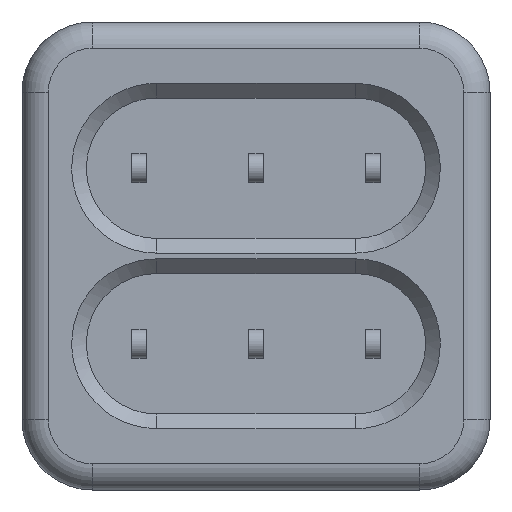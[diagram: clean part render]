
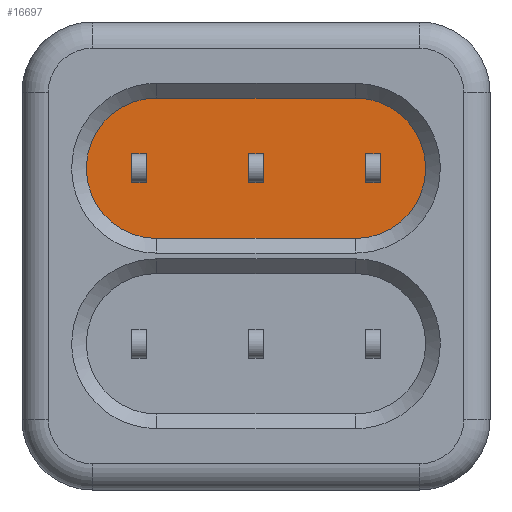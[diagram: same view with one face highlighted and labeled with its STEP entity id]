
A CAD part, front view. The second image highlights one B-rep face of the part: STEP entity #16697.
In plain terms, the highlighted planar face has unit normal (0, -1, 0).
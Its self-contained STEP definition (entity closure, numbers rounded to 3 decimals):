
#13006=CARTESIAN_POINT('',(-3.4,-7.4,3.));
#13007=DIRECTION('',(0.,-1.,0.));
#13008=DIRECTION('',(0.,0.,1.));
#13009=AXIS2_PLACEMENT_3D('',#13006,#13007,#13008);
#13011=DIRECTION('',(-1.,0.,0.));
#13012=VECTOR('',#13011,6.8);
#13013=CARTESIAN_POINT('',(3.4,-7.4,5.4));
#13014=LINE('',#13013,#13012);
#13015=CARTESIAN_POINT('',(3.4,-7.4,3.));
#13016=DIRECTION('',(0.,-1.,0.));
#13017=DIRECTION('',(0.,0.,-1.));
#13018=AXIS2_PLACEMENT_3D('',#13015,#13016,#13017);
#13020=DIRECTION('',(1.,0.,0.));
#13021=VECTOR('',#13020,6.8);
#13022=CARTESIAN_POINT('',(-3.4,-7.4,0.6));
#13023=LINE('',#13022,#13021);
#13024=DIRECTION('',(0.,0.,-1.));
#13025=VECTOR('',#13024,1.);
#13026=CARTESIAN_POINT('',(-4.25,-7.4,3.5));
#13027=LINE('',#13026,#13025);
#13041=DIRECTION('',(1.,0.,0.));
#13042=VECTOR('',#13041,0.5);
#13043=CARTESIAN_POINT('',(-4.25,-7.4,3.5));
#13044=LINE('',#13043,#13042);
#13045=DIRECTION('',(0.,0.,-1.));
#13046=VECTOR('',#13045,1.);
#13047=CARTESIAN_POINT('',(-3.75,-7.4,3.5));
#13048=LINE('',#13047,#13046);
#13062=DIRECTION('',(1.,0.,0.));
#13063=VECTOR('',#13062,0.5);
#13064=CARTESIAN_POINT('',(-4.25,-7.4,2.5));
#13065=LINE('',#13064,#13063);
#13074=DIRECTION('',(0.,0.,1.));
#13075=VECTOR('',#13074,1.);
#13076=CARTESIAN_POINT('',(4.25,-7.4,2.5));
#13077=LINE('',#13076,#13075);
#13091=DIRECTION('',(-1.,0.,0.));
#13092=VECTOR('',#13091,0.5);
#13093=CARTESIAN_POINT('',(4.25,-7.4,2.5));
#13094=LINE('',#13093,#13092);
#13095=DIRECTION('',(0.,0.,1.));
#13096=VECTOR('',#13095,1.);
#13097=CARTESIAN_POINT('',(3.75,-7.4,2.5));
#13098=LINE('',#13097,#13096);
#13112=DIRECTION('',(-1.,0.,0.));
#13113=VECTOR('',#13112,0.5);
#13114=CARTESIAN_POINT('',(4.25,-7.4,3.5));
#13115=LINE('',#13114,#13113);
#13124=DIRECTION('',(0.,0.,1.));
#13125=VECTOR('',#13124,1.);
#13126=CARTESIAN_POINT('',(-0.25,-7.4,2.5));
#13127=LINE('',#13126,#13125);
#13141=DIRECTION('',(1.,0.,0.));
#13142=VECTOR('',#13141,0.5);
#13143=CARTESIAN_POINT('',(-0.25,-7.4,3.5));
#13144=LINE('',#13143,#13142);
#13145=DIRECTION('',(0.,0.,1.));
#13146=VECTOR('',#13145,1.);
#13147=CARTESIAN_POINT('',(0.25,-7.4,2.5));
#13148=LINE('',#13147,#13146);
#13162=DIRECTION('',(1.,0.,0.));
#13163=VECTOR('',#13162,0.5);
#13164=CARTESIAN_POINT('',(-0.25,-7.4,2.5));
#13165=LINE('',#13164,#13163);
#15917=CARTESIAN_POINT('',(-3.4,-7.4,5.4));
#15918=CARTESIAN_POINT('',(-3.4,-7.4,0.6));
#15919=VERTEX_POINT('',#15917);
#15920=VERTEX_POINT('',#15918);
#15921=CARTESIAN_POINT('',(3.4,-7.4,0.6));
#15922=VERTEX_POINT('',#15921);
#15923=CARTESIAN_POINT('',(3.4,-7.4,5.4));
#15924=VERTEX_POINT('',#15923);
#15929=CARTESIAN_POINT('',(-4.25,-7.4,3.5));
#15930=CARTESIAN_POINT('',(-4.25,-7.4,2.5));
#15931=VERTEX_POINT('',#15929);
#15932=VERTEX_POINT('',#15930);
#15937=CARTESIAN_POINT('',(-3.75,-7.4,3.5));
#15938=CARTESIAN_POINT('',(-3.75,-7.4,2.5));
#15939=VERTEX_POINT('',#15937);
#15940=VERTEX_POINT('',#15938);
#15945=CARTESIAN_POINT('',(4.25,-7.4,2.5));
#15946=CARTESIAN_POINT('',(4.25,-7.4,3.5));
#15947=VERTEX_POINT('',#15945);
#15948=VERTEX_POINT('',#15946);
#15953=CARTESIAN_POINT('',(3.75,-7.4,2.5));
#15954=CARTESIAN_POINT('',(3.75,-7.4,3.5));
#15955=VERTEX_POINT('',#15953);
#15956=VERTEX_POINT('',#15954);
#15961=CARTESIAN_POINT('',(-0.25,-7.4,2.5));
#15962=CARTESIAN_POINT('',(-0.25,-7.4,3.5));
#15963=VERTEX_POINT('',#15961);
#15964=VERTEX_POINT('',#15962);
#15969=CARTESIAN_POINT('',(0.25,-7.4,2.5));
#15970=CARTESIAN_POINT('',(0.25,-7.4,3.5));
#15971=VERTEX_POINT('',#15969);
#15972=VERTEX_POINT('',#15970);
#16656=CARTESIAN_POINT('',(0.,-7.4,3.));
#16657=DIRECTION('',(0.,-1.,0.));
#16658=DIRECTION('',(0.,0.,1.));
#16659=AXIS2_PLACEMENT_3D('',#16656,#16657,#16658);
#16660=PLANE('',#16659);
#16661=ORIENTED_EDGE('',*,*,#16583,.F.);
#16662=ORIENTED_EDGE('',*,*,#16624,.F.);
#16663=ORIENTED_EDGE('',*,*,#16638,.F.);
#16664=ORIENTED_EDGE('',*,*,#16567,.F.);
#16665=EDGE_LOOP('',(#16661,#16662,#16663,#16664));
#16666=FACE_OUTER_BOUND('',#16665,.F.);
#16668=ORIENTED_EDGE('',*,*,#16667,.T.);
#16670=ORIENTED_EDGE('',*,*,#16669,.T.);
#16672=ORIENTED_EDGE('',*,*,#16671,.F.);
#16674=ORIENTED_EDGE('',*,*,#16673,.F.);
#16675=EDGE_LOOP('',(#16668,#16670,#16672,#16674));
#16676=FACE_BOUND('',#16675,.F.);
#16678=ORIENTED_EDGE('',*,*,#16677,.T.);
#16680=ORIENTED_EDGE('',*,*,#16679,.T.);
#16682=ORIENTED_EDGE('',*,*,#16681,.F.);
#16684=ORIENTED_EDGE('',*,*,#16683,.F.);
#16685=EDGE_LOOP('',(#16678,#16680,#16682,#16684));
#16686=FACE_BOUND('',#16685,.F.);
#16688=ORIENTED_EDGE('',*,*,#16687,.F.);
#16690=ORIENTED_EDGE('',*,*,#16689,.T.);
#16692=ORIENTED_EDGE('',*,*,#16691,.T.);
#16694=ORIENTED_EDGE('',*,*,#16693,.F.);
#16695=EDGE_LOOP('',(#16688,#16690,#16692,#16694));
#16696=FACE_BOUND('',#16695,.F.);
#13010=CIRCLE('',#13009,2.4);
#13019=CIRCLE('',#13018,2.4);
#16567=EDGE_CURVE('',#15920,#15922,#13023,.T.);
#16583=EDGE_CURVE('',#15919,#15920,#13010,.T.);
#16624=EDGE_CURVE('',#15924,#15919,#13014,.T.);
#16638=EDGE_CURVE('',#15922,#15924,#13019,.T.);
#16667=EDGE_CURVE('',#15931,#15932,#13027,.T.);
#16669=EDGE_CURVE('',#15932,#15940,#13065,.T.);
#16671=EDGE_CURVE('',#15939,#15940,#13048,.T.);
#16673=EDGE_CURVE('',#15931,#15939,#13044,.T.);
#16677=EDGE_CURVE('',#15947,#15948,#13077,.T.);
#16679=EDGE_CURVE('',#15948,#15956,#13115,.T.);
#16681=EDGE_CURVE('',#15955,#15956,#13098,.T.);
#16683=EDGE_CURVE('',#15947,#15955,#13094,.T.);
#16687=EDGE_CURVE('',#15963,#15964,#13127,.T.);
#16689=EDGE_CURVE('',#15963,#15971,#13165,.T.);
#16691=EDGE_CURVE('',#15971,#15972,#13148,.T.);
#16693=EDGE_CURVE('',#15964,#15972,#13144,.T.);
#16697=ADVANCED_FACE('',(#16666,#16676,#16686,#16696),#16660,.T.);
